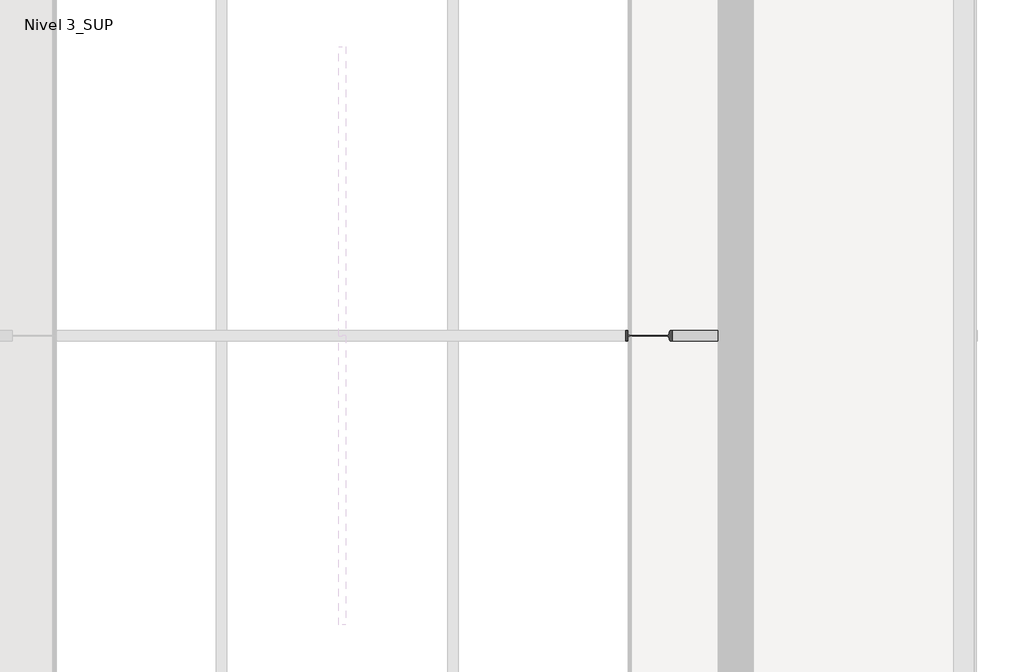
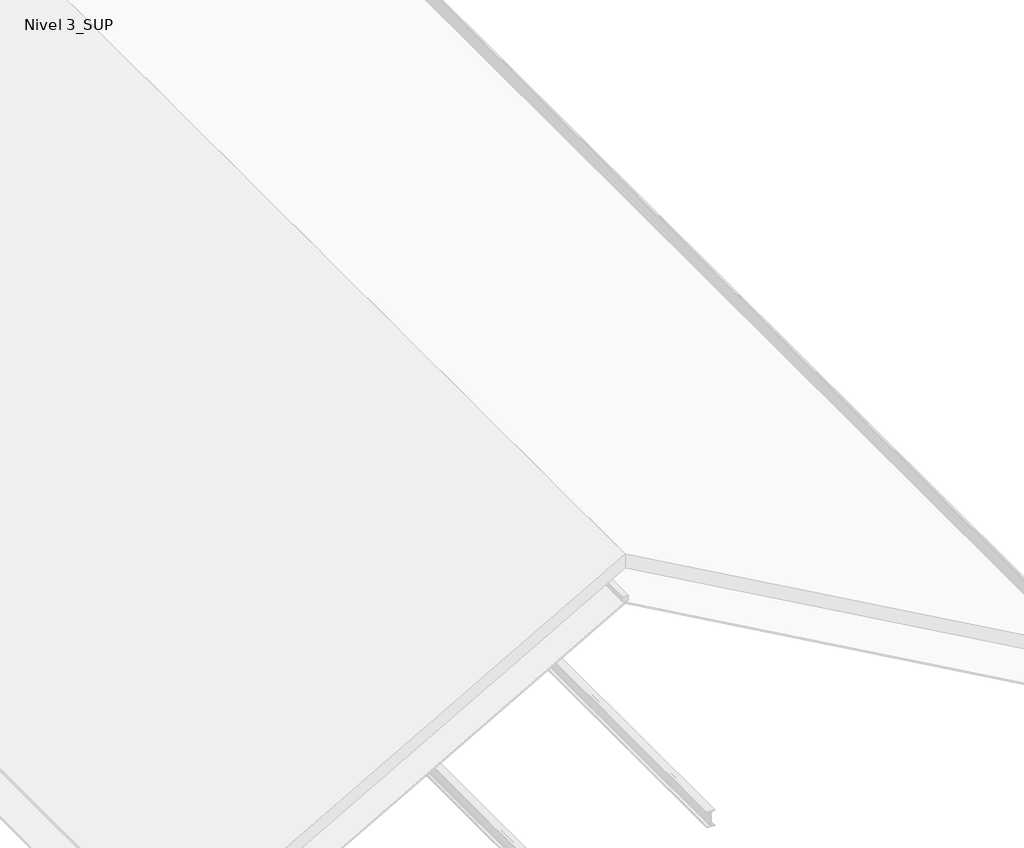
# One storey, part 3 of 10: 2 beams.
"""IFC4 building model written with IfcOpenShell, lengths in millimetres."""

from ifc_helpers import new_model, si_unit, point, frame, frame_2d, origin, place, context, project, spatial, polyline, circle_curve, ellipse_curve, trimmed, segment, composite_curve, outline, extrude, element, save
from ifc_brep_helpers import plane_surface, cylinder_surface, revolved_surface, advanced_brep

model = new_model("IFC4")

# Units and contexts
model_context = context("Model", 3, world=origin())
ifc_project = project(units=[si_unit("LENGTHUNIT", "METRE", prefix="MILLI")], contexts=[model_context])

# Site, building, storey
site = spatial("IfcSite", under=ifc_project)
building = spatial("IfcBuilding", under=site)
storey = spatial("IfcBuildingStorey", under=building, Name="Nivel 3_SUP", Elevation=13230.0)

# Beams
placement = place(None, origin())
element("IfcBeam", 1, ObjectType="IPN - Secciones en I con alas cónicas : IPN 160", at=placement, inside=storey, context=model_context, shape_type="AdvancedBrep", body=[
    advanced_brep(
    [(10494.5684321, -1900.3927727, 15557.5050493), (10496.3415234, -1900.3927727, 15560.6437982), (10498.1925032, -1897.1196345, 15563.9204261), (10499.9243319, -1871.9692913, 15566.9861314), (10502.9930614, -1866.5427727, 15572.4184356), (10494.5684321, -1866.5427727, 15557.5050493), (10569.87885, -1900.3927727, 15514.9619045), (10569.87885, -1900.3927727, 15519.1022796), (10566.1155514, -1897.1196345, 15525.5504349), (10562.5945033, -1871.9692913, 15531.5835105), (10556.3553503, -1866.5427727, 15542.2738734), (10556.3553503, -1866.5427727, 15522.6013815), (10562.5945033, -1871.9692913, 15519.07686), (10566.1155514, -1897.1196345, 15517.0878064)],
    [
        (0, 1),
        (1, 2, circle_curve(frame((10496.3415234, -1896.5927727, 15560.6437982), z_axis=(-0.8706797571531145, 0.0, 0.49185034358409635), x_axis=(0.0, 1.0, 0.0)), 3.8)),
        (2, 3),
        (3, 4, circle_curve(frame((10502.9930614, -1872.8427727, 15572.4184356), z_axis=(0.8706797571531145, 0.0, -0.49185034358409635), x_axis=(0.0, 1.0, 0.0)), 6.3)),
        (4, 5),
        (5, 0),
        (0, 6),
        (6, 7),
        (7, 1),
        (7, 8, ellipse_curve(frame((10569.87885, -1896.5927727, 15519.1022796), z_axis=(-0.8636695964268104, 0.0, -0.5040583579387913), x_axis=(-0.5040583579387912, 0.0, 0.8636695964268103)), 7.5388096, 3.8)),
        (8, 2),
        (8, 9),
        (9, 3),
        (9, 10, ellipse_curve(frame((10556.3553503, -1872.8427727, 15542.2738734), z_axis=(0.8636695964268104, 0.0, 0.5040583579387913), x_axis=(0.5040583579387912, 0.0, -0.8636695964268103)), 12.4985528, 6.3)),
        (10, 4),
        (5, 11),
        (11, 12, ellipse_curve(frame((10556.3553503, -1872.8427727, 15522.6013815), z_axis=(-0.49185034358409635, 0.0, -0.8706797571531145), x_axis=(-0.8706797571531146, 0.0, 0.49185034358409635)), 7.2357258, 6.3)),
        (12, 13),
        (13, 6, ellipse_curve(frame((10569.87885, -1896.5927727, 15514.9619045), z_axis=(0.49185034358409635, 0.0, 0.8706797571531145), x_axis=(0.8706797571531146, 0.0, -0.49185034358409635)), 4.3644061, 3.8)),
        (13, 8),
        (12, 9),
        (11, 10),
    ],
    [
        plane_surface(frame((10533.9164596, -1863.3927727, 15627.1594298), z_axis=(-0.8706797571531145, 0.0, 0.4918503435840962), x_axis=(0.4918503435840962, 0.0, 0.8706797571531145))),
        plane_surface(frame((10494.5684321, -1900.3927727, 15557.5050493), z_axis=(0.0, -1.0, 0.0), x_axis=(0.8706797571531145, 0.0, -0.49185034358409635))),
        cylinder_surface(frame((10496.3415234, -1896.5927727, 15560.6437982), z_axis=(-0.8706797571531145, 0.0, 0.49185034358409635), x_axis=(0.0, 1.0, 0.0)), 3.8),
        plane_surface(frame((10499.2410104, -1881.8927727, 15565.776507), z_axis=(0.48709992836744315, -0.1386478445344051, 0.8622705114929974), x_axis=(0.8706797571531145, 0.0, -0.49185034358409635))),
        revolved_surface(polyline([(10565.75400744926, -1866.5427727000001, 15536.964535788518), (10502.9930614, -1866.5427727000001, 15572.4184356)]), (10502.9930614, -1872.8427727, 15572.4184356), (0.8706797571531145, 0.0, -0.49185034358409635)),
        plane_surface(frame((10494.5684321, -1826.3927727, 15557.5050493), z_axis=(-0.49185034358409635, 0.0, -0.8706797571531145), x_axis=(0.8706797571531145, 0.0, -0.49185034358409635))),
        revolved_surface(polyline([(10569.87885, -1900.3927727, 15512.591238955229), (10569.87885, -1900.3927727, 15525.61332024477)]), (10569.87885, -1896.5927727, 14544.0), (0.0, 0.0, -1.0)),
        plane_surface(frame((10566.1155514, -1897.1196345, 13390.0), z_axis=(0.9903417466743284, 0.138647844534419, 0.0), x_axis=(0.0, 0.0, 1.0))),
        cylinder_surface(frame((10556.3553503, -1872.8427727, 14544.0), z_axis=(0.0, 0.0, 1.0), x_axis=(0.0, -1.0, 0.0)), 6.3),
        plane_surface(frame((10556.3553503, -1866.5427727, 13390.0), z_axis=(0.0, 1.0, 0.0), x_axis=(0.0, 0.0, 1.0))),
    ],
    [
        (0, [[1, 2, 3, 4, 5, 6]]),
        (1, [[-1, 7, 8, 9]]),
        (2, [[-2, -9, 10, 11]]),
        (3, [[-3, -11, 12, 13]]),
        (4, [[-4, -13, 14, 15]]),
        (5, [[-6, 16, 17, 18, 19, -7]]),
        (6, [[20, -10, -8, -19]]),
        (7, [[-20, -18, 21, -12]]),
        (8, [[-21, -17, 22, -14]]),
        (9, [[-22, -16, -5, -15]]),
    ],
),
    advanced_brep(
    [(14596.3407681, -1826.3927727, 13240.3980806), (14598.1138594, -1826.3927727, 13243.5368296), (14599.9648391, -1829.6659109, 13246.8134575), (14601.6966678, -1854.8162541, 13249.8791628), (14604.7653974, -1860.2427727, 13255.311467), (14600.1427742, -1860.2427727, 13247.1284404), (14596.6182526, -1854.8162541, 13240.8892874), (14596.3407681, -1851.3076345, 13240.3980806), (14345.2243974, -1826.3927727, 13386.3950593), (14359.537545, -1829.6659109, 13382.6317607), (14372.9293285, -1854.8162541, 13379.1107126), (14396.6590206, -1860.2427727, 13372.8715596), (14337.8950527, -1826.3927727, 13386.3950593), (14595.4712276, -1854.8162541, 13240.8892874), (14584.4265993, -1860.2427727, 13247.1284404), (14361.8345245, -1860.2427727, 13372.8715596), (14350.7898962, -1854.8162541, 13379.1107126), (14344.556892, -1829.6659109, 13382.6317607)],
    [
        (0, 1),
        (1, 2, circle_curve(frame((14598.1138594, -1830.1927727, 13243.5368296), z_axis=(0.8706797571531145, 0.0, -0.49185034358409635), x_axis=(0.0, 1.0, 0.0)), 3.8)),
        (2, 3),
        (3, 4, circle_curve(frame((14604.7653974, -1853.9427727, 13255.311467), z_axis=(-0.8706797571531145, 0.0, 0.49185034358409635), x_axis=(0.0, 1.0, 0.0)), 6.3)),
        (4, 5),
        (5, 6, ellipse_curve(frame((14600.1427742, -1853.9427727, 13247.1284404), z_axis=(0.8706797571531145, 0.0, -0.4918503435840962), x_axis=(0.4918503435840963, 0.0, 0.8706797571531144)), 7.2357258, 6.3)),
        (6, 7),
        (7, 0),
        (1, 8),
        (8, 9, ellipse_curve(frame((14345.2243974, -1830.1927727, 13386.3950593), z_axis=(-0.25428354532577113, 0.0, -0.9671297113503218), x_axis=(-0.9671297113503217, 0.0, 0.2542835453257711)), 14.9439477, 3.8)),
        (9, 2),
        (3, 10),
        (10, 11, ellipse_curve(frame((14396.6590206, -1853.9427727, 13372.8715596), z_axis=(0.25428354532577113, 0.0, 0.9671297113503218), x_axis=(0.9671297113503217, 0.0, -0.2542835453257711)), 24.7754922, 6.3)),
        (11, 4),
        (9, 10),
        (0, 12),
        (12, 8),
        (7, 13),
        (13, 14, ellipse_curve(frame((14584.4265993, -1853.9427727, 13247.1284404), z_axis=(-0.49185034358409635, 0.0, -0.8706797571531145), x_axis=(0.8706797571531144, 0.0, -0.4918503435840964)), 12.8087742, 6.3)),
        (14, 15),
        (15, 16, ellipse_curve(frame((14361.8345245, -1853.9427727, 13372.8715596), z_axis=(-0.49185034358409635, 0.0, -0.8706797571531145), x_axis=(0.8706797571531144, 0.0, -0.4918503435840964)), 12.8087742, 6.3)),
        (16, 17),
        (17, 12, ellipse_curve(frame((14337.8950527, -1830.1927727, 13386.3950593), z_axis=(0.49185034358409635, 0.0, 0.8706797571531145), x_axis=(-0.8706797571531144, 0.0, 0.4918503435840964)), 7.7259273, 3.8)),
        (9, 17),
        (16, 10),
        (15, 11),
        (14, 5),
        (13, 6),
    ],
    [
        plane_surface(frame((14635.6887956, -1863.3927727, 13310.0524612), z_axis=(0.8706797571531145, 0.0, -0.4918503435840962), x_axis=(0.4918503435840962, 0.0, 0.8706797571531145))),
        cylinder_surface(frame((10496.3415234, -1830.1927727, 15560.6437982), z_axis=(-0.8706797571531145, 0.0, 0.49185034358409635), x_axis=(0.0, 1.0, 0.0)), 3.8),
        revolved_surface(polyline([(14604.765397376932, -1847.6427727, 13255.311466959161), (14375.796563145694, -1847.6427727, 13384.656842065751)]), (10502.9930614, -1853.9427727, 15572.4184356), (0.8706797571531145, 0.0, -0.49185034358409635)),
        plane_surface(frame((10499.2410104, -1844.8927727, 15565.776507), z_axis=(0.48709992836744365, 0.13864784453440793, 0.8622705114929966), x_axis=(0.8706797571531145, 0.0, -0.49185034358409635))),
        plane_surface(frame((10496.3415234, -1826.3927727, 15560.6437982), z_axis=(0.0, 1.0, 0.0), x_axis=(0.8706797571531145, 0.0, -0.49185034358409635))),
        plane_surface(frame((10494.5684321, -1826.3927727, 15557.5050493), z_axis=(-0.49185034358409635, 0.0, -0.8706797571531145), x_axis=(0.8706797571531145, 0.0, -0.49185034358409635))),
        plane_surface(frame((6033.4837907, -1829.6659109, 13382.6317607), z_axis=(0.0, -0.13864784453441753, 0.9903417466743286), x_axis=(1.0, 0.0, 0.0))),
        cylinder_surface(frame((10498.9822323, -1853.9427727, 13372.8715596), z_axis=(1.0, 0.0, 0.0), x_axis=(0.0, 1.0, 0.0)), 6.3),
        plane_surface(frame((6033.4837907, -1860.2427727, 13372.8715596), z_axis=(0.0, -1.0, 0.0), x_axis=(1.0, 0.0, 0.0))),
        cylinder_surface(frame((10498.9822323, -1853.9427727, 13247.1284404), z_axis=(1.0, 0.0, 0.0), x_axis=(0.0, 1.0, 0.0)), 6.3),
        plane_surface(frame((6033.4837907, -1854.8162541, 13240.8892874), z_axis=(0.0, -0.13864784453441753, -0.9903417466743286), x_axis=(1.0, 0.0, 0.0))),
        revolved_surface(polyline([(14330.771661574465, -1826.3927727, 13386.3950593), (14359.677133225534, -1826.3927727, 13386.3950593)]), (10498.9822323, -1830.1927727, 13386.3950593), (-1.0, 0.0, 0.0)),
    ],
    [
        (0, [[1, 2, 3, 4, 5, 6, 7, 8]]),
        (1, [[-2, 9, 10, 11]]),
        (2, [[-4, 12, 13, 14]]),
        (3, [[-3, -11, 15, -12]]),
        (4, [[-1, 16, 17, -9]]),
        (5, [[-8, 18, 19, 20, 21, 22, 23, -16]]),
        (6, [[24, -22, 25, -15]]),
        (7, [[-25, -21, 26, -13]]),
        (8, [[-26, -20, 27, -5, -14]]),
        (9, [[-27, -19, 28, -6]]),
        (10, [[-28, -18, -7]]),
        (11, [[-24, -10, -17, -23]]),
    ],
),
    advanced_brep(
    [(10573.4837907, -1826.3927727, 15692.5495499), (10573.4837907, -1826.3927727, 15696.6899249), (14656.815743, -1826.3927727, 13390.0), (14649.4863983, -1826.3927727, 13390.0), (10573.4837907, -1854.8162541, 15684.1832745), (10573.4837907, -1829.6659109, 15688.2272964), (14641.8350899, -1829.6659109, 13390.0), (14634.6763106, -1854.8162541, 13390.0), (10573.4837907, -1860.2427727, 15677.0174331), (14621.9912468, -1860.2427727, 13390.0), (10573.4837907, -1860.2427727, 15532.5979515), (14366.3380368, -1860.2427727, 13390.0), (10573.4837907, -1866.5427727, 15677.0174331), (10573.4837907, -1866.5427727, 15532.5979515), (14366.3380368, -1866.5427727, 13390.0), (14621.9912468, -1866.5427727, 13390.0), (10573.4837907, -1871.9692913, 15684.1832745), (14634.6763106, -1871.9692913, 13390.0), (10573.4837907, -1897.1196345, 15688.2272964), (14641.8350899, -1897.1196345, 13390.0), (10573.4837907, -1900.3927727, 15696.6899249), (10573.4837907, -1900.3927727, 15692.5495499), (14649.4863983, -1900.3927727, 13390.0), (14656.815743, -1900.3927727, 13390.0), (10573.4837907, -1854.8162541, 15525.4321101), (14353.6529729, -1854.8162541, 13390.0), (10573.4837907, -1829.6659109, 15521.3880882), (14346.4941937, -1829.6659109, 13390.0), (10573.4837907, -1826.3927727, 15512.9254597), (10573.4837907, -1826.3927727, 15517.0658347), (14338.8428853, -1826.3927727, 13390.0), (14331.5135406, -1826.3927727, 13390.0), (10573.4837907, -1900.3927727, 15512.9254597), (14331.5135406, -1900.3927727, 13390.0), (10573.4837907, -1900.3927727, 15517.0658347), (14338.8428853, -1900.3927727, 13390.0), (10573.4837907, -1871.9692913, 15525.4321101), (10573.4837907, -1897.1196345, 15521.3880882), (14346.4941937, -1897.1196345, 13390.0), (14353.6529729, -1871.9692913, 13390.0)],
    [
        (0, 1),
        (1, 2),
        (2, 3),
        (3, 0),
        (4, 5),
        (5, 6),
        (6, 7),
        (7, 4),
        (8, 4, ellipse_curve(frame((10573.4837907, -1853.9427727, 15677.0174331), z_axis=(-1.0, 0.0, 0.0), x_axis=(0.0, 0.0, -1.0)), 7.2357258, 6.3)),
        (7, 9, ellipse_curve(frame((14621.9912468, -1853.9427727, 13390.0), z_axis=(0.0, 0.0, -1.0), x_axis=(1.0, 0.0, 0.0)), 12.8087742, 6.3)),
        (9, 8),
        (10, 8),
        (9, 11),
        (11, 10),
        (12, 13),
        (13, 14),
        (14, 15),
        (15, 12),
        (16, 12, ellipse_curve(frame((10573.4837907, -1872.8427727, 15677.0174331), z_axis=(-1.0, 0.0, 0.0), x_axis=(0.0, 0.0, -1.0)), 7.2357258, 6.3)),
        (15, 17, ellipse_curve(frame((14621.9912468, -1872.8427727, 13390.0), z_axis=(0.0, 0.0, -1.0), x_axis=(1.0, 0.0, 0.0)), 12.8087742, 6.3)),
        (17, 16),
        (18, 16),
        (17, 19),
        (19, 18),
        (20, 21),
        (21, 22),
        (22, 23),
        (23, 20),
        (1, 20),
        (23, 2),
        (24, 10, ellipse_curve(frame((10573.4837907, -1853.9427727, 15532.5979515), z_axis=(-1.0, 0.0, 0.0), x_axis=(0.0, 0.0, -1.0)), 7.2357258, 6.3)),
        (11, 25, ellipse_curve(frame((14366.3380368, -1853.9427727, 13390.0), z_axis=(0.0, 0.0, -1.0), x_axis=(1.0, 0.0, 0.0)), 12.8087742, 6.3)),
        (25, 24),
        (26, 24),
        (25, 27),
        (27, 26),
        (28, 29),
        (29, 30),
        (30, 31),
        (31, 28),
        (32, 28),
        (31, 33),
        (33, 32),
        (34, 32),
        (33, 35),
        (35, 34),
        (36, 37),
        (37, 38),
        (38, 39),
        (39, 36),
        (13, 36, ellipse_curve(frame((10573.4837907, -1872.8427727, 15532.5979515), z_axis=(-1.0, 0.0, 0.0), x_axis=(0.0, 0.0, -1.0)), 7.2357258, 6.3)),
        (39, 14, ellipse_curve(frame((14366.3380368, -1872.8427727, 13390.0), z_axis=(0.0, 0.0, -1.0), x_axis=(1.0, 0.0, 0.0)), 12.8087742, 6.3)),
        (5, 0, ellipse_curve(frame((10573.4837907, -1830.1927727, 15692.5495499), z_axis=(1.0, 0.0, 0.0), x_axis=(0.0, 0.0, 1.0)), 4.3644061, 3.8)),
        (3, 6, ellipse_curve(frame((14649.4863983, -1830.1927727, 13390.0), z_axis=(0.0, 0.0, 1.0), x_axis=(-1.0, 0.0, 0.0)), 7.7259273, 3.8)),
        (21, 18, ellipse_curve(frame((10573.4837907, -1896.5927727, 15692.5495499), z_axis=(1.0, 0.0, 0.0), x_axis=(0.0, 0.0, 1.0)), 4.3644061, 3.8)),
        (19, 22, ellipse_curve(frame((14649.4863983, -1896.5927727, 13390.0), z_axis=(0.0, 0.0, 1.0), x_axis=(-1.0, 0.0, 0.0)), 7.7259273, 3.8)),
        (29, 26, ellipse_curve(frame((10573.4837907, -1830.1927727, 15517.0658347), z_axis=(1.0, 0.0, 0.0), x_axis=(0.0, 0.0, 1.0)), 4.3644061, 3.8)),
        (27, 30, ellipse_curve(frame((14338.8428853, -1830.1927727, 13390.0), z_axis=(0.0, 0.0, 1.0), x_axis=(-1.0, 0.0, 0.0)), 7.7259273, 3.8)),
        (37, 34, ellipse_curve(frame((10573.4837907, -1896.5927727, 15517.0658347), z_axis=(1.0, 0.0, 0.0), x_axis=(0.0, 0.0, 1.0)), 4.3644061, 3.8)),
        (35, 38, ellipse_curve(frame((14338.8428853, -1896.5927727, 13390.0), z_axis=(0.0, 0.0, 1.0), x_axis=(-1.0, 0.0, 0.0)), 7.7259273, 3.8)),
    ],
    [
        plane_surface(frame((10573.2644871, -1826.3927727, 15696.8138104), z_axis=(0.0, 1.0, 0.0), x_axis=(0.8706797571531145, 0.0, -0.49185034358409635))),
        plane_surface(frame((10568.5919088, -1844.8927727, 15688.5423527), z_axis=(-0.4870999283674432, 0.1386478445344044, -0.8622705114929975), x_axis=(0.8706797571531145, 0.0, -0.49185034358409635))),
        revolved_surface(polyline([(14631.70136385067, -1847.6427727, 13384.51471755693), (10570.385133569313, -1847.6427727, 15678.767876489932)]), (10564.8398578, -1853.9427727, 15681.9004241), (0.8706797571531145, 0.0, -0.49185034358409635)),
        plane_surface(frame((10564.8398578, -1860.2427727, 15681.9004241), z_axis=(0.0, 1.0, 0.0), x_axis=(0.8706797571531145, 0.0, -0.49185034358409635))),
        plane_surface(frame((10502.9930614, -1866.5427727, 15572.4184356), z_axis=(0.0, -1.0, 0.0), x_axis=(0.8706797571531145, 0.0, -0.49185034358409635))),
        revolved_surface(polyline([(14631.70136385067, -1866.5427727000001, 13384.51471755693), (10570.385133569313, -1866.5427727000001, 15678.767876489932)]), (10564.8398578, -1872.8427727, 15681.9004241), (0.8706797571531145, 0.0, -0.49185034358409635)),
        plane_surface(frame((10568.5919088, -1881.8927727, 15688.5423527), z_axis=(-0.48709992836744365, -0.13864784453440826, -0.8622705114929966), x_axis=(0.8706797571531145, 0.0, -0.49185034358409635))),
        plane_surface(frame((10571.4913958, -1900.3927727, 15693.6750615), z_axis=(0.0, -1.0, 0.0), x_axis=(0.8706797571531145, 0.0, -0.49185034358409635))),
        plane_surface(frame((10573.2644871, -1900.3927727, 15696.8138104), z_axis=(0.49185034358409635, 0.0, 0.8706797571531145), x_axis=(0.8706797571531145, 0.0, -0.49185034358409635))),
        revolved_surface(polyline([(14376.048153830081, -1847.6427727, 13384.514717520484), (10570.385133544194, -1847.6427727, 15534.348394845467)]), (10502.9930614, -1853.9427727, 15572.4184356), (0.8706797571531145, 0.0, -0.49185034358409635)),
        plane_surface(frame((10499.2410104, -1844.8927727, 15565.776507), z_axis=(0.48709992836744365, 0.13864784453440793, 0.8622705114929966), x_axis=(0.8706797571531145, 0.0, -0.49185034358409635))),
        plane_surface(frame((10496.3415234, -1826.3927727, 15560.6437982), z_axis=(0.0, 1.0, 0.0), x_axis=(0.8706797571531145, 0.0, -0.49185034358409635))),
        plane_surface(frame((10494.5684321, -1826.3927727, 15557.5050493), z_axis=(-0.49185034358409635, 0.0, -0.8706797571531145), x_axis=(0.8706797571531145, 0.0, -0.49185034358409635))),
        plane_surface(frame((10494.5684321, -1900.3927727, 15557.5050493), z_axis=(0.0, -1.0, 0.0), x_axis=(0.8706797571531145, 0.0, -0.49185034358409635))),
        plane_surface(frame((10499.2410104, -1881.8927727, 15565.776507), z_axis=(0.48709992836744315, -0.1386478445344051, 0.8622705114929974), x_axis=(0.8706797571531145, 0.0, -0.49185034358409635))),
        revolved_surface(polyline([(14376.048153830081, -1866.5427727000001, 13384.514717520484), (10570.385133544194, -1866.5427727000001, 15534.348394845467)]), (10502.9930614, -1872.8427727, 15572.4184356), (0.8706797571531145, 0.0, -0.49185034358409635)),
        cylinder_surface(frame((10571.4913958, -1830.1927727, 15693.6750615), z_axis=(-0.8706797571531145, 0.0, 0.49185034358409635), x_axis=(0.0, 1.0, 0.0)), 3.8),
        cylinder_surface(frame((10571.4913958, -1896.5927727, 15693.6750615), z_axis=(-0.8706797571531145, 0.0, 0.49185034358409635), x_axis=(0.0, 1.0, 0.0)), 3.8),
        cylinder_surface(frame((10496.3415234, -1830.1927727, 15560.6437982), z_axis=(-0.8706797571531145, 0.0, 0.49185034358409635), x_axis=(0.0, 1.0, 0.0)), 3.8),
        cylinder_surface(frame((10496.3415234, -1896.5927727, 15560.6437982), z_axis=(-0.8706797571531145, 0.0, 0.49185034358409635), x_axis=(0.0, 1.0, 0.0)), 3.8),
        plane_surface(frame((10573.4837907, -1826.3927727, 13390.0), z_axis=(-1.0, 0.0, 0.0), x_axis=(0.0, 0.0, 1.0))),
        plane_surface(frame((6033.4837907, -1900.3927727, 13390.0), z_axis=(0.0, 0.0, -1.0), x_axis=(1.0, 0.0, 0.0))),
    ],
    [
        (0, [[1, 2, 3, 4]]),
        (1, [[5, 6, 7, 8]]),
        (2, [[9, -8, 10, 11]]),
        (3, [[12, -11, 13, 14]]),
        (4, [[15, 16, 17, 18]]),
        (5, [[19, -18, 20, 21]]),
        (6, [[22, -21, 23, 24]]),
        (7, [[25, 26, 27, 28]]),
        (8, [[29, -28, 30, -2]]),
        (9, [[31, -14, 32, 33]]),
        (10, [[34, -33, 35, 36]]),
        (11, [[37, 38, 39, 40]]),
        (12, [[41, -40, 42, 43]]),
        (13, [[44, -43, 45, 46]]),
        (14, [[47, 48, 49, 50]]),
        (15, [[51, -50, 52, -16]]),
        (16, [[53, -4, 54, -6]]),
        (17, [[55, -24, 56, -26]]),
        (18, [[57, -36, 58, -38]]),
        (19, [[59, -46, 60, -48]]),
        (20, [[-1, -53, -5, -9, -12, -31, -34, -57, -37, -41, -44, -59, -47, -51, -15, -19, -22, -55, -25, -29]]),
        (21, [[-3, -30, -27, -56, -23, -20, -17, -52, -49, -60, -45, -42, -39, -58, -35, -32, -13, -10, -7, -54]]),
    ],
),
    advanced_brep(
    [(14673.2637317, -1826.3927727, 13376.5680929), (14671.412752, -1829.6659109, 13373.2914649), (14654.8784413, -1829.6659109, 13382.6317607), (14655.8679103, -1826.3927727, 13386.3950593), (14666.6121937, -1860.2427727, 13364.7934555), (14669.6809233, -1854.8162541, 13370.2257597), (14675.036823, -1826.3927727, 13379.7068418), (14675.036823, -1850.5581884, 13379.7068418), (14674.7000674, -1854.8162541, 13379.1107126), (14671.1755458, -1860.2427727, 13372.8715596), (14663.197255, -1826.3927727, 13386.3950593), (14653.9526662, -1854.8162541, 13379.1107126), (14652.3122307, -1860.2427727, 13372.8715596), (14669.8590943, -1829.6659109, 13382.6317607)],
    [
        (0, 1, circle_curve(frame((14673.2637317, -1830.1927727, 13376.5680929), z_axis=(-0.8706797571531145, 0.0, 0.49185034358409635), x_axis=(0.0, 1.0, 0.0)), 3.8)),
        (1, 2),
        (2, 3, ellipse_curve(frame((14655.8679103, -1830.1927727, 13386.3950593), z_axis=(0.9671297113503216, 0.0, -0.2542835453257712), x_axis=(0.25428354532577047, 0.0, 0.9671297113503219)), 3.9291524, 3.8)),
        (3, 0),
        (4, 5, circle_curve(frame((14666.6121937, -1853.9427727, 13364.7934555), z_axis=(-0.8706797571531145, 0.0, 0.49185034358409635), x_axis=(0.0, 1.0, 0.0)), 6.3)),
        (5, 1),
        (0, 6),
        (6, 7),
        (7, 8),
        (8, 9, ellipse_curve(frame((14671.1755458, -1853.9427727, 13372.8715596), z_axis=(0.8706797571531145, 0.0, -0.4918503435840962), x_axis=(0.4918503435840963, 0.0, 0.8706797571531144)), 7.2357258, 6.3)),
        (9, 4),
        (3, 10),
        (10, 6),
        (5, 11),
        (11, 2),
        (4, 12),
        (12, 11, ellipse_curve(frame((14652.3122307, -1853.9427727, 13372.8715596), z_axis=(-0.9671297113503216, 0.0, 0.2542835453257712), x_axis=(-0.25428354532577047, 0.0, -0.9671297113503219)), 6.514121, 6.3)),
        (10, 13, ellipse_curve(frame((14663.197255, -1830.1927727, 13386.3950593), z_axis=(-0.49185034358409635, 0.0, -0.8706797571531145), x_axis=(-0.8706797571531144, 0.0, 0.4918503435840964)), 7.7259273, 3.8)),
        (13, 7),
        (2, 13),
        (11, 8),
        (12, 9),
    ],
    [
        cylinder_surface(frame((10571.4913958, -1830.1927727, 15693.6750615), z_axis=(-0.8706797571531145, 0.0, 0.49185034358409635), x_axis=(0.0, 1.0, 0.0)), 3.8),
        plane_surface(frame((14635.6887956, -1863.3927727, 13310.0524612), z_axis=(0.8706797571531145, 0.0, -0.4918503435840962), x_axis=(0.4918503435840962, 0.0, 0.8706797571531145))),
        plane_surface(frame((10573.2644871, -1826.3927727, 15696.8138104), z_axis=(0.0, 1.0, 0.0), x_axis=(0.8706797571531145, 0.0, -0.49185034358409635))),
        plane_surface(frame((10568.5919088, -1844.8927727, 15688.5423527), z_axis=(-0.4870999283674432, 0.1386478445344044, -0.8622705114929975), x_axis=(0.8706797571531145, 0.0, -0.49185034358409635))),
        revolved_surface(polyline([(14666.612193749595, -1847.6427727, 13364.793455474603), (14650.870007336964, -1847.6427727, 13373.68627712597)]), (10564.8398578, -1853.9427727, 15681.9004241), (0.8706797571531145, 0.0, -0.49185034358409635)),
        plane_surface(frame((10573.2644871, -1900.3927727, 15696.8138104), z_axis=(0.49185034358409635, 0.0, 0.8706797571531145), x_axis=(0.8706797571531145, 0.0, -0.49185034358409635))),
        revolved_surface(polyline([(14654.868791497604, -1826.3927727, 13386.3950593), (14669.924063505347, -1826.3927727, 13386.3950593)]), (10498.9822323, -1830.1927727, 13386.3950593), (-1.0, 0.0, 0.0)),
        plane_surface(frame((6033.4837907, -1829.6659109, 13382.6317607), z_axis=(0.0, -0.13864784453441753, 0.9903417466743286), x_axis=(1.0, 0.0, 0.0))),
        cylinder_surface(frame((10498.9822323, -1853.9427727, 13372.8715596), z_axis=(1.0, 0.0, 0.0), x_axis=(0.0, 1.0, 0.0)), 6.3),
        plane_surface(frame((6033.4837907, -1860.2427727, 13372.8715596), z_axis=(0.0, -1.0, 0.0), x_axis=(1.0, 0.0, 0.0))),
    ],
    [
        (0, [[1, 2, 3, 4]]),
        (1, [[5, 6, -1, 7, 8, 9, 10, 11]]),
        (2, [[-7, -4, 12, 13]]),
        (3, [[-6, 14, 15, -2]]),
        (4, [[-5, 16, 17, -14]]),
        (5, [[-8, -13, 18, 19]]),
        (6, [[20, -18, -12, -3]]),
        (7, [[-20, -15, 21, -9, -19]]),
        (8, [[-21, -17, 22, -10]]),
        (9, [[-22, -16, -11]]),
    ],
),
    advanced_brep(
    [(10499.9243319, -1854.8162541, 15566.9861314), (10502.9930614, -1860.2427727, 15572.4184356), (10556.3553503, -1860.2427727, 15542.2738734), (10562.5945033, -1854.8162541, 15531.5835105), (10498.1925032, -1829.6659109, 15563.9204261), (10566.1155514, -1829.6659109, 15525.5504349), (10496.3415234, -1826.3927727, 15560.6437982), (10569.87885, -1826.3927727, 15519.1022796), (10494.5684321, -1826.3927727, 15557.5050493), (10569.87885, -1826.3927727, 15514.9619045), (10494.5684321, -1860.2427727, 15557.5050493), (10566.1155514, -1829.6659109, 15517.0878064), (10562.5945033, -1854.8162541, 15519.07686), (10556.3553503, -1860.2427727, 15522.6013815)],
    [
        (0, 1, circle_curve(frame((10502.9930614, -1853.9427727, 15572.4184356), z_axis=(-0.8706797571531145, 0.0, 0.49185034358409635), x_axis=(0.0, 1.0, 0.0)), 6.3)),
        (1, 2),
        (2, 3, ellipse_curve(frame((10556.3553503, -1853.9427727, 15542.2738734), z_axis=(0.8636695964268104, 0.0, 0.5040583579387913), x_axis=(0.5040583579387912, 0.0, -0.8636695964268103)), 12.4985528, 6.3)),
        (3, 0),
        (4, 0),
        (3, 5),
        (5, 4),
        (6, 4, circle_curve(frame((10496.3415234, -1830.1927727, 15560.6437982), z_axis=(0.8706797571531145, 0.0, -0.49185034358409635), x_axis=(0.0, 1.0, 0.0)), 3.8)),
        (5, 7, ellipse_curve(frame((10569.87885, -1830.1927727, 15519.1022796), z_axis=(-0.8636695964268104, 0.0, -0.5040583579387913), x_axis=(-0.5040583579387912, 0.0, 0.8636695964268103)), 7.5388096, 3.8)),
        (7, 6),
        (8, 6),
        (7, 9),
        (9, 8),
        (10, 8),
        (9, 11, ellipse_curve(frame((10569.87885, -1830.1927727, 15514.9619045), z_axis=(0.49185034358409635, 0.0, 0.8706797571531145), x_axis=(0.8706797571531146, 0.0, -0.49185034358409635)), 4.3644061, 3.8)),
        (11, 12),
        (12, 13, ellipse_curve(frame((10556.3553503, -1853.9427727, 15522.6013815), z_axis=(-0.49185034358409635, 0.0, -0.8706797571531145), x_axis=(-0.8706797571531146, 0.0, 0.49185034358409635)), 7.2357258, 6.3)),
        (13, 10),
        (10, 1),
        (13, 2),
        (12, 3),
        (11, 5),
    ],
    [
        revolved_surface(polyline([(10565.75400744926, -1847.6427727, 15536.964535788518), (10502.9930614, -1847.6427727, 15572.4184356)]), (10502.9930614, -1853.9427727, 15572.4184356), (0.8706797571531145, 0.0, -0.49185034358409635)),
        plane_surface(frame((10499.2410104, -1844.8927727, 15565.776507), z_axis=(0.48709992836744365, 0.13864784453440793, 0.8622705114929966), x_axis=(0.8706797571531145, 0.0, -0.49185034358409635))),
        cylinder_surface(frame((10496.3415234, -1830.1927727, 15560.6437982), z_axis=(-0.8706797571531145, 0.0, 0.49185034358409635), x_axis=(0.0, 1.0, 0.0)), 3.8),
        plane_surface(frame((10496.3415234, -1826.3927727, 15560.6437982), z_axis=(0.0, 1.0, 0.0), x_axis=(0.8706797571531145, 0.0, -0.49185034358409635))),
        plane_surface(frame((10494.5684321, -1826.3927727, 15557.5050493), z_axis=(-0.49185034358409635, 0.0, -0.8706797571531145), x_axis=(0.8706797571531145, 0.0, -0.49185034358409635))),
        plane_surface(frame((10533.9164596, -1863.3927727, 15627.1594298), z_axis=(-0.8706797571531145, 0.0, 0.4918503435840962), x_axis=(0.4918503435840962, 0.0, 0.8706797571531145))),
        plane_surface(frame((10430.6122311, -1860.2427727, 13390.0), z_axis=(0.0, -1.0, 0.0), x_axis=(0.0, 0.0, 1.0))),
        cylinder_surface(frame((10556.3553503, -1853.9427727, 14544.0), z_axis=(0.0, 0.0, 1.0), x_axis=(0.0, -1.0, 0.0)), 6.3),
        plane_surface(frame((10562.5945033, -1854.8162541, 13390.0), z_axis=(0.9903417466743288, -0.13864784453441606, 0.0), x_axis=(0.0, 0.0, 1.0))),
        revolved_surface(polyline([(10569.87885, -1833.9927727, 15512.591238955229), (10569.87885, -1833.9927727, 15525.61332024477)]), (10569.87885, -1830.1927727, 14544.0), (0.0, 0.0, -1.0)),
    ],
    [
        (0, [[1, 2, 3, 4]]),
        (1, [[5, -4, 6, 7]]),
        (2, [[8, -7, 9, 10]]),
        (3, [[11, -10, 12, 13]]),
        (4, [[14, -13, 15, 16, 17, 18]]),
        (5, [[-1, -5, -8, -11, -14, 19]]),
        (6, [[20, -2, -19, -18]]),
        (7, [[-20, -17, 21, -3]]),
        (8, [[-21, -16, 22, -6]]),
        (9, [[-22, -15, -12, -9]]),
    ],
),
    advanced_brep(
    [(14671.412752, -1897.1196345, 13373.2914649), (14673.2637317, -1900.3927727, 13376.5680929), (14655.8679103, -1900.3927727, 13386.3950593), (14654.8784413, -1897.1196345, 13382.6317607), (14675.036823, -1900.3927727, 13379.7068418), (14669.6809233, -1871.9692913, 13370.2257597), (14666.6121937, -1866.5427727, 13364.7934555), (14671.1755458, -1866.5427727, 13372.8715596), (14674.7000674, -1871.9692913, 13379.1107126), (14675.036823, -1876.2273569, 13379.7068418), (14653.9526662, -1871.9692913, 13379.1107126), (14652.3122307, -1866.5427727, 13372.8715596), (14663.197255, -1900.3927727, 13386.3950593), (14669.8590943, -1897.1196345, 13382.6317607)],
    [
        (0, 1, circle_curve(frame((14673.2637317, -1896.5927727, 13376.5680929), z_axis=(-0.8706797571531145, 0.0, 0.49185034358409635), x_axis=(0.0, 1.0, 0.0)), 3.8)),
        (1, 2),
        (2, 3, ellipse_curve(frame((14655.8679103, -1896.5927727, 13386.3950593), z_axis=(0.9671297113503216, 0.0, -0.2542835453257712), x_axis=(0.25428354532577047, 0.0, 0.9671297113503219)), 3.9291524, 3.8)),
        (3, 0),
        (4, 1),
        (0, 5),
        (5, 6, circle_curve(frame((14666.6121937, -1872.8427727, 13364.7934555), z_axis=(-0.8706797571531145, 0.0, 0.49185034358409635), x_axis=(0.0, 1.0, 0.0)), 6.3)),
        (6, 7),
        (7, 8, ellipse_curve(frame((14671.1755458, -1872.8427727, 13372.8715596), z_axis=(0.8706797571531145, 0.0, -0.4918503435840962), x_axis=(0.4918503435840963, 0.0, 0.8706797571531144)), 7.2357258, 6.3)),
        (8, 9),
        (9, 4),
        (5, 10),
        (10, 11, ellipse_curve(frame((14652.3122307, -1872.8427727, 13372.8715596), z_axis=(-0.9671297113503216, 0.0, 0.2542835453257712), x_axis=(-0.25428354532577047, 0.0, -0.9671297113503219)), 6.514121, 6.3)),
        (11, 6),
        (3, 10),
        (4, 12),
        (12, 2),
        (9, 13),
        (13, 12, ellipse_curve(frame((14663.197255, -1896.5927727, 13386.3950593), z_axis=(-0.49185034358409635, 0.0, -0.8706797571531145), x_axis=(-0.8706797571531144, 0.0, 0.4918503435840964)), 7.7259273, 3.8)),
        (13, 3),
        (11, 7),
        (10, 8),
    ],
    [
        cylinder_surface(frame((10571.4913958, -1896.5927727, 15693.6750615), z_axis=(-0.8706797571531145, 0.0, 0.49185034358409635), x_axis=(0.0, 1.0, 0.0)), 3.8),
        plane_surface(frame((14635.6887956, -1863.3927727, 13310.0524612), z_axis=(0.8706797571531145, 0.0, -0.4918503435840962), x_axis=(0.4918503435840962, 0.0, 0.8706797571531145))),
        revolved_surface(polyline([(14666.612193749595, -1866.5427727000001, 13364.793455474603), (14650.870007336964, -1866.5427727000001, 13373.68627712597)]), (10564.8398578, -1872.8427727, 15681.9004241), (0.8706797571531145, 0.0, -0.49185034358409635)),
        plane_surface(frame((10568.5919088, -1881.8927727, 15688.5423527), z_axis=(-0.48709992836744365, -0.13864784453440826, -0.8622705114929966), x_axis=(0.8706797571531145, 0.0, -0.49185034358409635))),
        plane_surface(frame((10571.4913958, -1900.3927727, 15693.6750615), z_axis=(0.0, -1.0, 0.0), x_axis=(0.8706797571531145, 0.0, -0.49185034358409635))),
        plane_surface(frame((10573.2644871, -1900.3927727, 15696.8138104), z_axis=(0.49185034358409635, 0.0, 0.8706797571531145), x_axis=(0.8706797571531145, 0.0, -0.49185034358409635))),
        revolved_surface(polyline([(14654.868791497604, -1892.7927727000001, 13386.3950593), (14669.924063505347, -1892.7927727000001, 13386.3950593)]), (10498.9822323, -1896.5927727, 13386.3950593), (-1.0, 0.0, 0.0)),
        plane_surface(frame((6033.4837907, -1866.5427727, 13247.1284404), z_axis=(0.0, 1.0, 0.0), x_axis=(1.0, 0.0, 0.0))),
        cylinder_surface(frame((10498.9822323, -1872.8427727, 13372.8715596), z_axis=(1.0, 0.0, 0.0), x_axis=(0.0, 1.0, 0.0)), 6.3),
        plane_surface(frame((6033.4837907, -1871.9692913, 13379.1107126), z_axis=(0.0, 0.13864784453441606, 0.9903417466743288), x_axis=(1.0, 0.0, 0.0))),
    ],
    [
        (0, [[1, 2, 3, 4]]),
        (1, [[5, -1, 6, 7, 8, 9, 10, 11]]),
        (2, [[-7, 12, 13, 14]]),
        (3, [[-6, -4, 15, -12]]),
        (4, [[-5, 16, 17, -2]]),
        (5, [[-11, 18, 19, -16]]),
        (6, [[20, -3, -17, -19]]),
        (7, [[21, -8, -14]]),
        (8, [[-21, -13, 22, -9]]),
        (9, [[-22, -15, -20, -18, -10]]),
    ],
),
    advanced_brep(
    [(14598.1138594, -1900.3927727, 13243.5368296), (14599.9648391, -1897.1196345, 13246.8134575), (14359.537545, -1897.1196345, 13382.6317607), (14345.2243974, -1900.3927727, 13386.3950593), (14604.7653974, -1866.5427727, 13255.311467), (14601.6966678, -1871.9692913, 13249.8791628), (14596.3407681, -1900.3927727, 13240.3980806), (14596.3407681, -1875.4779109, 13240.3980806), (14596.6182526, -1871.9692913, 13240.8892874), (14600.1427742, -1866.5427727, 13247.1284404), (14337.8950527, -1900.3927727, 13386.3950593), (14344.556892, -1897.1196345, 13382.6317607), (14350.7898962, -1871.9692913, 13379.1107126), (14361.8345245, -1866.5427727, 13372.8715596), (14584.4265993, -1866.5427727, 13247.1284404), (14595.4712276, -1871.9692913, 13240.8892874), (14372.9293285, -1871.9692913, 13379.1107126), (14396.6590206, -1866.5427727, 13372.8715596)],
    [
        (0, 1, circle_curve(frame((14598.1138594, -1896.5927727, 13243.5368296), z_axis=(-0.8706797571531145, 0.0, 0.49185034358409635), x_axis=(0.0, 1.0, 0.0)), 3.8)),
        (1, 2),
        (2, 3, ellipse_curve(frame((14345.2243974, -1896.5927727, 13386.3950593), z_axis=(-0.25428354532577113, 0.0, -0.9671297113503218), x_axis=(-0.9671297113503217, 0.0, 0.2542835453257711)), 14.9439477, 3.8)),
        (3, 0),
        (4, 5, circle_curve(frame((14604.7653974, -1872.8427727, 13255.311467), z_axis=(-0.8706797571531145, 0.0, 0.49185034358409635), x_axis=(0.0, 1.0, 0.0)), 6.3)),
        (5, 1),
        (0, 6),
        (6, 7),
        (7, 8),
        (8, 9, ellipse_curve(frame((14600.1427742, -1872.8427727, 13247.1284404), z_axis=(0.8706797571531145, 0.0, -0.4918503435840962), x_axis=(0.4918503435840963, 0.0, 0.8706797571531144)), 7.2357258, 6.3)),
        (9, 4),
        (6, 10),
        (10, 11, ellipse_curve(frame((14337.8950527, -1896.5927727, 13386.3950593), z_axis=(0.49185034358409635, 0.0, 0.8706797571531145), x_axis=(-0.8706797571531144, 0.0, 0.4918503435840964)), 7.7259273, 3.8)),
        (11, 12),
        (12, 13, ellipse_curve(frame((14361.8345245, -1872.8427727, 13372.8715596), z_axis=(-0.49185034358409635, 0.0, -0.8706797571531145), x_axis=(0.8706797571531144, 0.0, -0.4918503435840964)), 12.8087742, 6.3)),
        (13, 14),
        (14, 15, ellipse_curve(frame((14584.4265993, -1872.8427727, 13247.1284404), z_axis=(-0.49185034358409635, 0.0, -0.8706797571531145), x_axis=(0.8706797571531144, 0.0, -0.4918503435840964)), 12.8087742, 6.3)),
        (15, 7),
        (3, 10),
        (5, 16),
        (16, 2),
        (4, 17),
        (17, 16, ellipse_curve(frame((14396.6590206, -1872.8427727, 13372.8715596), z_axis=(0.25428354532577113, 0.0, 0.9671297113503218), x_axis=(0.9671297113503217, 0.0, -0.2542835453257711)), 24.7754922, 6.3)),
        (15, 8),
        (14, 9),
        (13, 17),
        (12, 16),
        (11, 2),
    ],
    [
        cylinder_surface(frame((10496.3415234, -1896.5927727, 15560.6437982), z_axis=(-0.8706797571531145, 0.0, 0.49185034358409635), x_axis=(0.0, 1.0, 0.0)), 3.8),
        plane_surface(frame((14635.6887956, -1863.3927727, 13310.0524612), z_axis=(0.8706797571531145, 0.0, -0.4918503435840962), x_axis=(0.4918503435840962, 0.0, 0.8706797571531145))),
        plane_surface(frame((10494.5684321, -1826.3927727, 15557.5050493), z_axis=(-0.49185034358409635, 0.0, -0.8706797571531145), x_axis=(0.8706797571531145, 0.0, -0.49185034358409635))),
        plane_surface(frame((10494.5684321, -1900.3927727, 15557.5050493), z_axis=(0.0, -1.0, 0.0), x_axis=(0.8706797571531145, 0.0, -0.49185034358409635))),
        plane_surface(frame((10499.2410104, -1881.8927727, 15565.776507), z_axis=(0.48709992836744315, -0.1386478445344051, 0.8622705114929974), x_axis=(0.8706797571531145, 0.0, -0.49185034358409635))),
        revolved_surface(polyline([(14604.765397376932, -1866.5427727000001, 13255.311466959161), (14375.796563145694, -1866.5427727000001, 13384.656842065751)]), (10502.9930614, -1872.8427727, 15572.4184356), (0.8706797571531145, 0.0, -0.49185034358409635)),
        plane_surface(frame((6033.4837907, -1897.1196345, 13237.3682393), z_axis=(0.0, 0.13864784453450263, -0.9903417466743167), x_axis=(1.0, 0.0, 0.0))),
        cylinder_surface(frame((10498.9822323, -1872.8427727, 13247.1284404), z_axis=(1.0, 0.0, 0.0), x_axis=(0.0, 1.0, 0.0)), 6.3),
        plane_surface(frame((6033.4837907, -1866.5427727, 13247.1284404), z_axis=(0.0, 1.0, 0.0), x_axis=(1.0, 0.0, 0.0))),
        cylinder_surface(frame((10498.9822323, -1872.8427727, 13372.8715596), z_axis=(1.0, 0.0, 0.0), x_axis=(0.0, 1.0, 0.0)), 6.3),
        plane_surface(frame((6033.4837907, -1871.9692913, 13379.1107126), z_axis=(0.0, 0.13864784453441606, 0.9903417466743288), x_axis=(1.0, 0.0, 0.0))),
        revolved_surface(polyline([(14330.771661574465, -1892.7927727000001, 13386.3950593), (14359.677133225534, -1892.7927727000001, 13386.3950593)]), (10498.9822323, -1896.5927727, 13386.3950593), (-1.0, 0.0, 0.0)),
    ],
    [
        (0, [[1, 2, 3, 4]]),
        (1, [[5, 6, -1, 7, 8, 9, 10, 11]]),
        (2, [[-8, 12, 13, 14, 15, 16, 17, 18]]),
        (3, [[-7, -4, 19, -12]]),
        (4, [[-6, 20, 21, -2]]),
        (5, [[-5, 22, 23, -20]]),
        (6, [[24, -9, -18]]),
        (7, [[-24, -17, 25, -10]]),
        (8, [[-25, -16, 26, -22, -11]]),
        (9, [[-26, -15, 27, -23]]),
        (10, [[-27, -14, 28, -21]]),
        (11, [[-28, -13, -19, -3]]),
    ],
),
])
element("IfcBeam", 2, ObjectType="IPN - Secciones en I con alas cónicas : IPN 160", at=placement, inside=storey, context=model_context, shape_type="SweptSolid", body=[
    extrude(outline(composite_curve([segment(polyline([(10573.4837907, -1900.3927727), (10569.87885, -1900.3927727)]), True, "CONTINUOUS"), segment(trimmed(circle_curve(frame_2d((10569.87885, -1896.5927727)), 3.8), [point((10569.87885, -1900.3927727))], [point((10566.1155514, -1897.1196345))], False, "CARTESIAN"), True, "CONTINUOUS"), segment(polyline([(10566.1155514, -1897.1196345), (10562.5945033, -1871.9692913)]), True, "CONTINUOUS"), segment(trimmed(circle_curve(frame_2d((10556.3553503, -1872.8427727)), 6.3), [point((10562.5945033, -1871.9692913))], [point((10556.3553503, -1866.5427727))], True, "CARTESIAN"), True, "CONTINUOUS"), segment(polyline([(10556.3553503, -1866.5427727), (10430.6122311, -1866.5427727)]), True, "CONTINUOUS"), segment(trimmed(circle_curve(frame_2d((10430.6122311, -1872.8427727)), 6.3), [point((10430.6122311, -1866.5427727))], [point((10424.3730781, -1871.9692913))], True, "CARTESIAN"), True, "CONTINUOUS"), segment(polyline([(10424.3730781, -1871.9692913), (10420.8520301, -1897.1196345)]), True, "CONTINUOUS"), segment(trimmed(circle_curve(frame_2d((10417.0887314, -1896.5927727)), 3.8), [point((10420.8520301, -1897.1196345))], [point((10417.0887314, -1900.3927727))], False, "CARTESIAN"), True, "CONTINUOUS"), segment(polyline([(10417.0887314, -1900.3927727), (10413.4837907, -1900.3927727), (10413.4837907, -1826.3927727), (10417.0887314, -1826.3927727)]), True, "CONTINUOUS"), segment(trimmed(circle_curve(frame_2d((10417.0887314, -1830.1927727)), 3.8), [point((10417.0887314, -1826.3927727))], [point((10420.8520301, -1829.6659109))], False, "CARTESIAN"), True, "CONTINUOUS"), segment(polyline([(10420.8520301, -1829.6659109), (10424.3730781, -1854.8162541)]), True, "CONTINUOUS"), segment(trimmed(circle_curve(frame_2d((10430.6122311, -1853.9427727)), 6.3), [point((10424.3730781, -1854.8162541))], [point((10430.6122311, -1860.2427727))], True, "CARTESIAN"), True, "CONTINUOUS"), segment(polyline([(10430.6122311, -1860.2427727), (10556.3553503, -1860.2427727)]), True, "CONTINUOUS"), segment(trimmed(circle_curve(frame_2d((10556.3553503, -1853.9427727)), 6.3), [point((10556.3553503, -1860.2427727))], [point((10562.5945033, -1854.8162541))], True, "CARTESIAN"), True, "CONTINUOUS"), segment(polyline([(10562.5945033, -1854.8162541), (10566.1155514, -1829.6659109)]), True, "CONTINUOUS"), segment(trimmed(circle_curve(frame_2d((10569.87885, -1830.1927727)), 3.8), [point((10566.1155514, -1829.6659109))], [point((10569.87885, -1826.3927727))], False, "CARTESIAN"), True, "CONTINUOUS"), segment(polyline([(10569.87885, -1826.3927727), (10573.4837907, -1826.3927727), (10573.4837907, -1900.3927727)]), True, "CONTINUOUS")], self_intersect=False)), frame((0.0, 0.0, 13390.0), z_axis=(0.0, 0.0, 1.0), x_axis=(1.0, 0.0, 0.0)), (0.0, 0.0, 1.0), 2308.0),
])

save(model, "model.ifc")
